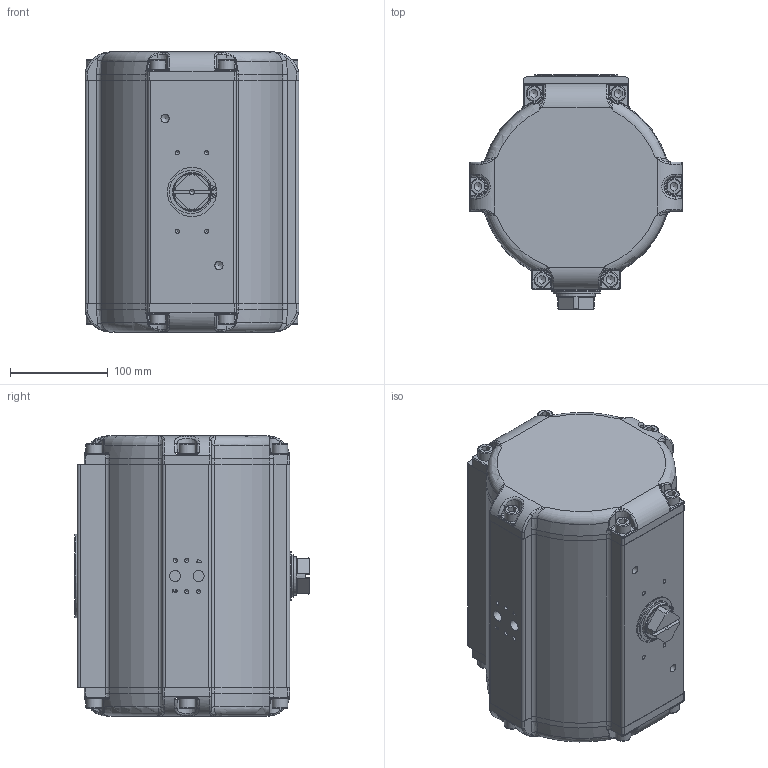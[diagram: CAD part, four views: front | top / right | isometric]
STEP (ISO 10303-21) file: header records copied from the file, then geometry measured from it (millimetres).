
FILE_DESCRIPTION((''),'2;1');
FILE_NAME('Z:\DOKUMENTATION ANTRIEBSPROGRAMM\Antriebe (neu)\BR16_SAD_SAF_90°\STEP-Dateien\35\SAD_35_BR16.stp','2017-06-27T08:46:56',('vmi'),(''),'Autodesk Inventor 2013','Autodesk Inventor 2013','');
FILE_SCHEMA(('AUTOMOTIVE_DESIGN { 1 0 10303 214 1 1 1 1 }'));
Length unit declared in the file: millimetre
Products named in the file (1): ENG-084100_Shrinkwrap_1
Bounding box: 218 x 239.5 x 286 mm (x, y, z)
Surface area: 326354.6 mm2 (no closed solid volume)
Topology: 0 solids, 26 shells, 592 faces, 1835 edges, 1209 vertices
Faces by surface type: plane 210, cylinder 154, bspline 114, cone 61, torus 53
Full cylindrical faces by diameter (mm): 4.134 x8, 4.917 x1, 8.376 x6, 10.106 x4, 11.445 x2, 13.835 x4, 16 x12, 37 x2, 39.8 x1, 50 x1, 60 x1, 85 x1
Entity records: 24865 total; most frequent: CARTESIAN_POINT 9741, ORIENTED_EDGE 2904, DIRECTION 2645, EDGE_CURVE 1706, VERTEX_POINT 1171, AXIS2_PLACEMENT_3D 1049, EDGE_LOOP 742, FACE_OUTER_BOUND 592
